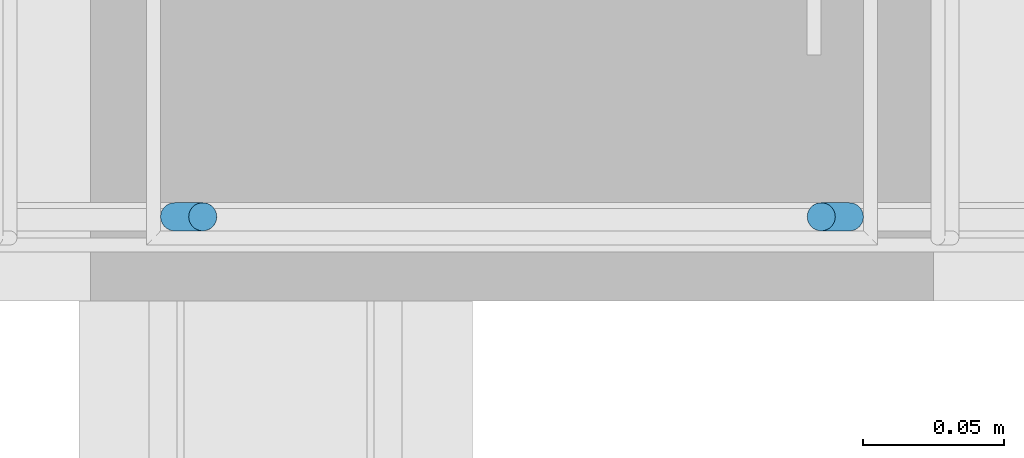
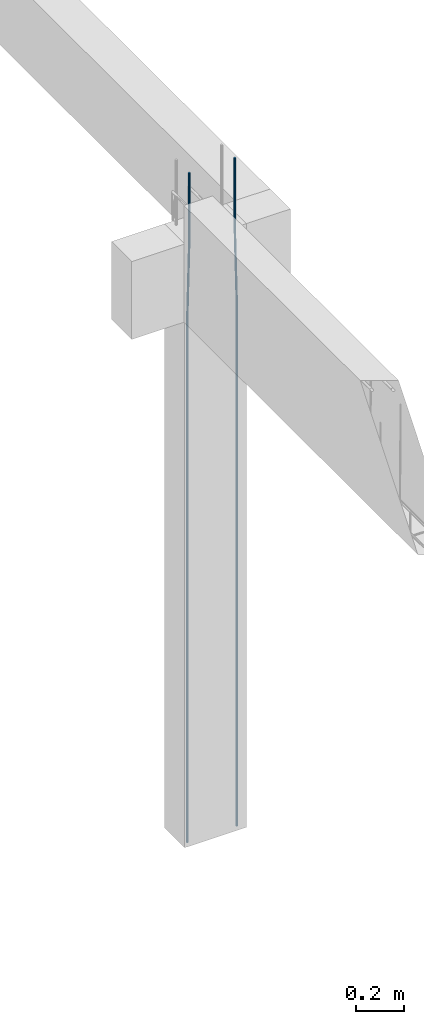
# One storey, part 76 of 236: 2 reinforcing bars.
"""IFC4 building model written with IfcOpenShell, lengths in centimetres."""

from ifc_helpers import new_model, entity, si_unit, derived_unit, frame, origin_with_axes, place, context, project, spatial, element, save


model = new_model("IFC4")

# Units and contexts
model_context = context("Model", 3, precision=1e-05, world=origin_with_axes(), identifier="Body")
ifc_project = project(units=[si_unit("LENGTHUNIT", "METRE", prefix="CENTI"), si_unit("VOLUMEUNIT", "CUBIC_METRE"), si_unit("AREAUNIT", "SQUARE_METRE"), si_unit("POWERUNIT", "WATT"), si_unit("LUMINOUSFLUXUNIT", "LUMEN"), si_unit("ELECTRICCURRENTUNIT", "AMPERE"), si_unit("PRESSUREUNIT", "PASCAL", prefix="KILO"), si_unit("MASSUNIT", "GRAM", prefix="KILO"), si_unit("PLANEANGLEUNIT", "RADIAN"), derived_unit("VOLUMETRICFLOWRATEUNIT", [(si_unit("LENGTHUNIT", "METRE"), 3), (si_unit("TIMEUNIT", "SECOND"), -1)])], contexts=[model_context])

# Site, building, storey
site_placement = place(None, frame((-4000.0, 0.0, 0.0), z_axis=(0.0, 0.0, 1.0), x_axis=(1.0, 0.0, 0.0)))
site = spatial("IfcSite", under=ifc_project, at=site_placement, Name="PADRÃO")
building_placement = place(site_placement, frame((0.0, 0.0, -14.0)))
building = spatial("IfcBuilding", under=site, at=building_placement, Name="CRECHE PRÉ-ESCOLA TIPO 2")
placement_1 = place(building_placement, origin_with_axes())
placement_2 = place(placement_1, frame((0.0, 0.0, 30.0), z_axis=(0.0, 0.0, 1.0), x_axis=(1.0, 0.0, 0.0)))
storey_placement = place(placement_2, frame((0.0, 0.0, 310.0), z_axis=(0.0, 0.0, 1.0), x_axis=(1.0, 0.0, 0.0)))
storey = spatial("IfcBuildingStorey", under=building, at=storey_placement, Name="TERREO", CompositionType="ELEMENT", Elevation=326.0)

# Reinforcing bars
reinforcing_bar_1_placement = place(storey_placement, frame((1404.75, 3194.52, 33.3573001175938), z_axis=(0.0, 0.0, 1.0), x_axis=(1.0, 0.0, 0.0)))
element("IfcReinforcingBar", 1, at=reinforcing_bar_1_placement, inside=storey, Name="P51 - Longitudinal", BarLength=0.0, CrossSectionArea=7.853981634e-05, NominalDiameter=1.0, PredefinedType="MAIN", context=model_context, shape_type="AdvancedSweptSolid", body=[
    entity("IfcSweptDiskSolid", entity("IfcCompositeCurve", [entity("IfcCompositeCurveSegment", "CONTINUOUS", True, entity("IfcPolyline", [entity("IfcCartesianPoint", [0.5, 0.0, -343.357300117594]), entity("IfcCartesianPoint", [0.5, 0.0, -73.3573001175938])])), entity("IfcCompositeCurveSegment", "CONTINUOUS", True, entity("IfcPolyline", [entity("IfcCartesianPoint", [0.5, 0.0, -73.3573001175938]), entity("IfcCartesianPoint", [-0.5, 0.0, -33.3573001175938])])), entity("IfcCompositeCurveSegment", "CONTINUOUS", True, entity("IfcPolyline", [entity("IfcCartesianPoint", [-0.5, 0.0, -33.3573001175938]), entity("IfcCartesianPoint", [-0.5, 0.0, 0.0])]))], False), 0.5),
])
reinforcing_bar_2_placement = place(storey_placement, frame((1381.75, 3194.52, 33.3573001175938), z_axis=(0.0, 0.0, 1.0), x_axis=(1.0, 0.0, 0.0)))
element("IfcReinforcingBar", 2, at=reinforcing_bar_2_placement, inside=storey, Name="P51 - Longitudinal", BarLength=0.0, CrossSectionArea=7.853981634e-05, NominalDiameter=1.0, PredefinedType="MAIN", context=model_context, shape_type="AdvancedSweptSolid", body=[
    entity("IfcSweptDiskSolid", entity("IfcCompositeCurve", [entity("IfcCompositeCurveSegment", "CONTINUOUS", True, entity("IfcPolyline", [entity("IfcCartesianPoint", [-0.5, 0.0, -343.357300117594]), entity("IfcCartesianPoint", [-0.5, 0.0, -73.3573001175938])])), entity("IfcCompositeCurveSegment", "CONTINUOUS", True, entity("IfcPolyline", [entity("IfcCartesianPoint", [-0.5, 0.0, -73.3573001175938]), entity("IfcCartesianPoint", [0.5, 0.0, -33.3573001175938])])), entity("IfcCompositeCurveSegment", "CONTINUOUS", True, entity("IfcPolyline", [entity("IfcCartesianPoint", [0.5, 0.0, -33.3573001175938]), entity("IfcCartesianPoint", [0.5, 0.0, 0.0])]))], False), 0.5),
])

save(model, "model.ifc")
